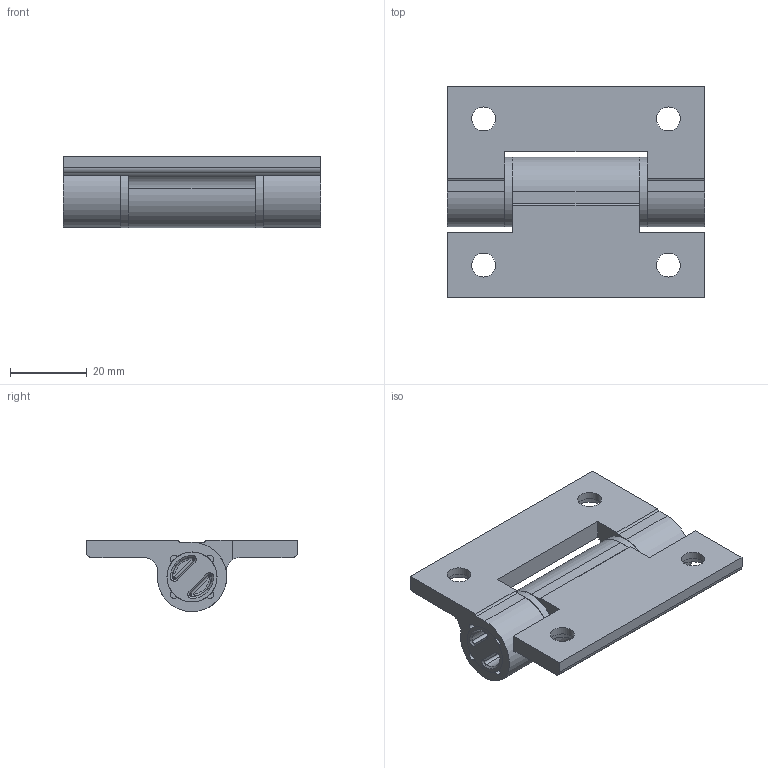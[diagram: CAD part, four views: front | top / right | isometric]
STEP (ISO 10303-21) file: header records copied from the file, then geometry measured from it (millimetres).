
FILE_DESCRIPTION(/* description */ ('Unknown'),/* implementation_level */ '2;1');
FILE_NAME(/* name */ '6872.01',/* time_stamp */ '2023-10-11T13:48:57+02:00',/* author */ ('Unknown'),/* organization */ ('Unknown'),/* preprocessor_version */ 'ST-DEVELOPER v16.7',/* originating_system */ 'DEX',/* authorisation */ $);
FILE_SCHEMA (('AUTOMOTIVE_DESIGN {1 0 10303 214 3 1 1}'));
Length unit declared in the file: millimetre
Products named in the file (5): 6872.01; 1_0; 2_0; 3_0; 5_0
Assembly tree (5 placements, depth 2):
  6872.01
    1_0
    2_0
    3_0  x2
    5_0
Bounding box: 67 x 55 x 18.5 mm (x, y, z)
Volume: 27201.6 mm3; surface area: 17711.7 mm2
Topology: 5 solids, 9 shells, 141 faces, 315 edges, 200 vertices
Faces by surface type: cylinder 49, plane 39, bspline 37, cone 12, torus 4
Full cylindrical faces by diameter (mm): 6.2 x4, 10.2 x4, 13 x3, 18 x2
Entity records: 4491 total; most frequent: CARTESIAN_POINT 1310, DIRECTION 658, ORIENTED_EDGE 596, EDGE_CURVE 298, AXIS2_PLACEMENT_3D 264, VERTEX_POINT 196, EDGE_LOOP 172, FACE_BOUND 172
